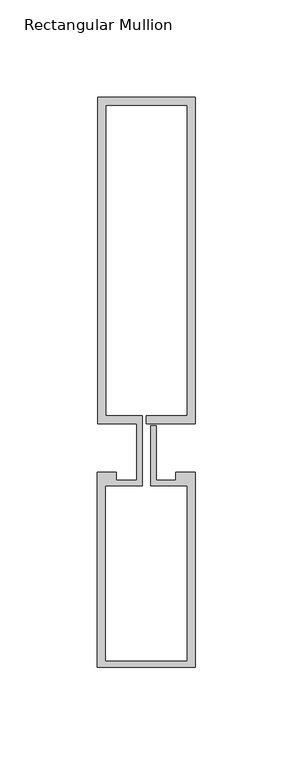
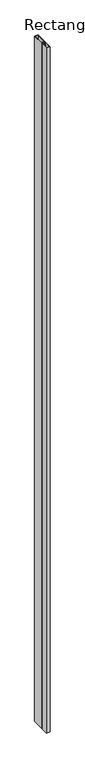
"""IFC4 building model written with IfcOpenShell, lengths in millimetres: member geometry, Rectangular Mullion : Reynaers_CW-50_Mullion-Transom_Vertical_167.5mm_Facecap-02D."""

from ifc_helpers import new_model, si_unit, frame, origin, place, context, project, spatial, polyline, outline, extrude, source, transform, mapped, element, save


def rectangular_mullion_3d8f77e9(model_context):
    return source(origin(), model_context, "Body", "SweptSolid", [
        extrude(outline(polyline([(-24.8004059, 180.0), (25.1995941, 180.0), (25.1995941, 12.5), (0.0, 12.5), (0.0, 16.5), (21.1995941, 16.5), (21.1995941, 176.0), (-20.8004059, 176.0), (-20.8004059, 16.5), (-1.9004059, 16.5), (-1.9004059, -19.5), (-20.994845, -19.5), (-20.994845, -109.4191338), (21.1995941, -109.4191338), (21.1995941, -19.5), (2.2995941, -19.5), (2.2995941, 11.5), (5.2995941, 11.5), (5.2995941, -16.5), (15.2996495, -16.5), (15.2996495, -12.5), (25.1995941, -12.5), (25.1995941, -112.5), (-24.994845, -112.5), (-24.994845, -12.5), (-15.2996495, -12.5), (-15.2996495, -16.5), (-4.9004059, -16.5), (-4.9004059, 12.5), (-24.8004059, 12.5), (-24.8004059, 180.0)])), frame((0.0, 0.0, -10400.0), z_axis=(0.0, 0.0, 1.0), x_axis=(1.0, 0.0, 0.0)), (0.0, 0.0, 1.0), 10400.0),
    ])


if __name__ == "__main__":
    model = new_model("IFC4")
    model_context = context("Model", 3, world=origin())
    ifc_project = project(units=[si_unit("LENGTHUNIT", "METRE", prefix="MILLI")], contexts=[model_context])
    site = spatial("IfcSite", under=ifc_project)
    building = spatial("IfcBuilding", under=site)
    placement = place(None, origin())
    rectangular_mullion_shape = rectangular_mullion_3d8f77e9(model_context)
    element("IfcMember", 1, ObjectType="Rectangular Mullion : Reynaers_CW-50_Mullion-Transom_Vertical_167.5mm_Facecap-02D", at=placement, inside=building, context=model_context, shape_type="MappedRepresentation", body=[
        mapped(rectangular_mullion_shape, transform((0.0, 0.0, 0.0), x_axis=(1.0, 0.0, 0.0), y_axis=(0.0, 1.0, 0.0), z_axis=(0.0, 0.0, 1.0))),
    ])
    save(model, "model.ifc")
